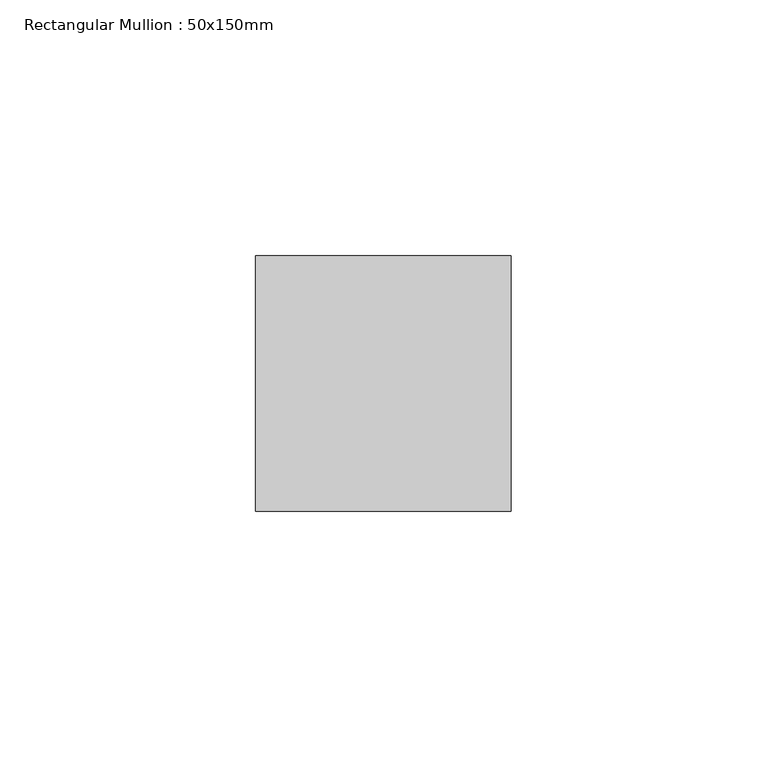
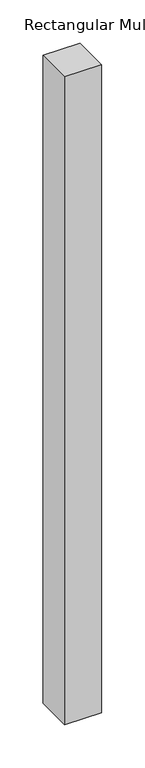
"""IFC4 building model written with IfcOpenShell, lengths in millimetres: member geometry, Rectangular Mullion : 50x150mm."""

from ifc_helpers import new_model, si_unit, frame, origin, place, context, project, spatial, polyline, outline, extrude, source, transform, mapped, element, save


def rectangular_mullion_50x150mm_ac0aef06(model_context):
    return source(origin(), model_context, "Body", "SweptSolid", [
        extrude(outline(polyline([(0.0, 25.0), (0.0, -25.0), (-50.0, -25.0), (-50.0, 25.0), (0.0, 25.0)])), frame((0.0, 0.0, -917.8711345), z_axis=(0.0, 0.0, 1.0), x_axis=(1.0, 0.0, 0.0)), (0.0, 0.0, 1.0), 917.8711345),
    ])


if __name__ == "__main__":
    model = new_model("IFC4")
    model_context = context("Model", 3, world=origin())
    ifc_project = project(units=[si_unit("LENGTHUNIT", "METRE", prefix="MILLI")], contexts=[model_context])
    site = spatial("IfcSite", under=ifc_project)
    building = spatial("IfcBuilding", under=site)
    placement = place(None, origin())
    rectangular_mullion_50x150mm_shape = rectangular_mullion_50x150mm_ac0aef06(model_context)
    element("IfcMember", 1, ObjectType="Rectangular Mullion : 50x150mm", at=placement, inside=building, context=model_context, shape_type="MappedRepresentation", body=[
        mapped(rectangular_mullion_50x150mm_shape, transform((0.0, 0.0, 0.0), x_axis=(1.0, 0.0, 0.0), y_axis=(0.0, 1.0, 0.0), z_axis=(0.0, 0.0, 1.0))),
    ])
    save(model, "model.ifc")
